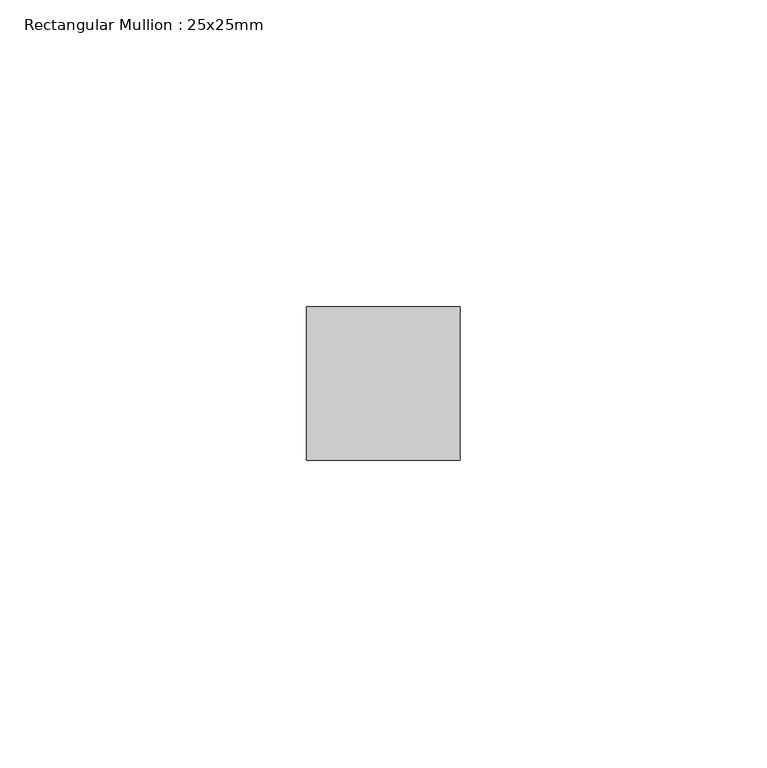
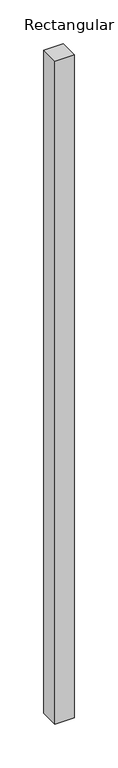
"""IFC4 building model written with IfcOpenShell, lengths in millimetres: member geometry, Rectangular Mullion : 25x25mm."""

from ifc_helpers import new_model, si_unit, frame, origin, place, context, project, spatial, polyline, outline, extrude, source, transform, mapped, element, save


def rectangular_mullion_25x25mm_c3a8d6dc(model_context):
    return source(origin(), model_context, "Body", "SweptSolid", [
        extrude(outline(polyline([(0.0, 0.5), (0.0, -24.5), (-25.0, -24.5), (-25.0, 0.5), (0.0, 0.5)])), frame((0.0, 0.0, -920.0), z_axis=(0.0, 0.0, 1.0), x_axis=(1.0, 0.0, 0.0)), (0.0, 0.0, 1.0), 920.0),
    ])


if __name__ == "__main__":
    model = new_model("IFC4")
    model_context = context("Model", 3, world=origin())
    ifc_project = project(units=[si_unit("LENGTHUNIT", "METRE", prefix="MILLI")], contexts=[model_context])
    site = spatial("IfcSite", under=ifc_project)
    building = spatial("IfcBuilding", under=site)
    placement = place(None, origin())
    rectangular_mullion_25x25mm_shape = rectangular_mullion_25x25mm_c3a8d6dc(model_context)
    element("IfcMember", 1, ObjectType="Rectangular Mullion : 25x25mm", at=placement, inside=building, context=model_context, shape_type="MappedRepresentation", body=[
        mapped(rectangular_mullion_25x25mm_shape, transform((0.0, 0.0, 0.0), x_axis=(1.0, 0.0, 0.0), y_axis=(0.0, 1.0, 0.0), z_axis=(0.0, 0.0, 1.0))),
    ])
    save(model, "model.ifc")
